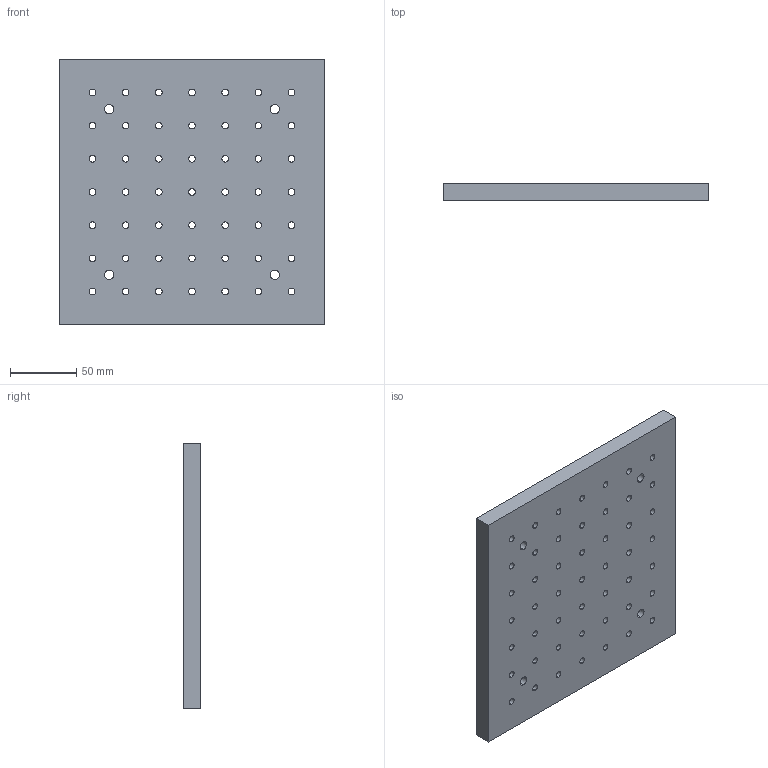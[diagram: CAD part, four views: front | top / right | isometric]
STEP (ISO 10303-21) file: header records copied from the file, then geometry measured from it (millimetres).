
FILE_DESCRIPTION (( 'STEP AP203' ), '1' );
FILE_NAME ('OTSB2020-13(AP203).STEP', '2022-02-28T08:58:47', ( '' ), ( '' ), 'SwSTEP 2.0', 'SolidWorks 2021', '' );
FILE_SCHEMA (( 'CONFIG_CONTROL_DESIGN' ));
Length unit declared in the file: millimetre
Products named in the file (1): OTSB2020-13(AP203)
Bounding box: 200 x 13.05 x 200 mm (x, y, z)
Volume: 503923.5 mm3; surface area: 100304.4 mm2
Topology: 11 solids, 11 shells, 284 faces, 774 edges, 516 vertices
Faces by surface type: plane 170, cylinder 114
Entity records: 9275 total; most frequent: CARTESIAN_POINT 1575, DIRECTION 1572, ORIENTED_EDGE 1548, EDGE_CURVE 774, VECTOR 546, LINE 546, VERTEX_POINT 516, AXIS2_PLACEMENT_3D 513
